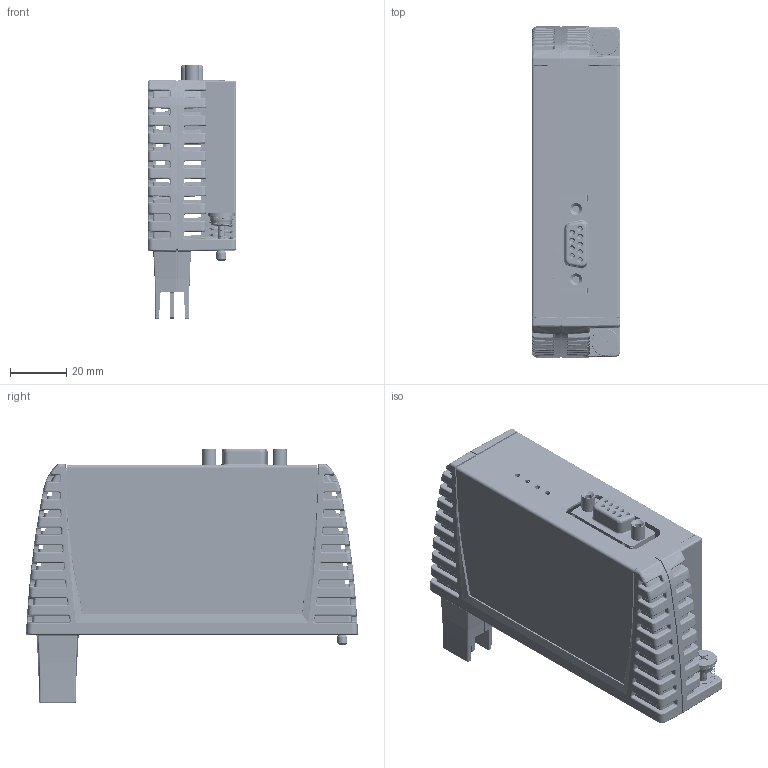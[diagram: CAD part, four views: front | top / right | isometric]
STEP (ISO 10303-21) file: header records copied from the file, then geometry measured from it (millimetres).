
FILE_DESCRIPTION (( 'STEP AP214' ), '1' );
FILE_NAME ('GMPBDP.STEP', '2016-03-30T10:49:52', ( 'Network Administration' ), ( 'Red Lion Controls Inc.' ), 'SwSTEP 2.0', 'SolidWorks 2014', '' );
FILE_SCHEMA (( 'AUTOMOTIVE_DESIGN' ));
Length unit declared in the file: millimetre
Products named in the file (11): 92010A112_92010A112; PEM F-632-1; M4905A_GMPB_2014-03-28; PEM SCBR-632-8 ZI; HWSMEF06_91771A143; McMC 90692A086; McMC 90402A106_90402A106; CV514900_MODULE SHEET METAL WRAP_GMPB WRAPPER - CV509304; CA503100_MODULE CASE, RIGHT HALF; CA503000_MODULE CASE, LEFT HALF; GMPBDP
Assembly tree (16 placements, depth 2):
  GMPBDP
    CA503000_MODULE CASE, LEFT HALF
    CA503100_MODULE CASE, RIGHT HALF
    CV514900_MODULE SHEET METAL WRAP_GMPB WRAPPER - CV509304
    McMC 90402A106_90402A106  x2
    McMC 90692A086  x4
    HWSMEF06_91771A143  x2
    PEM SCBR-632-8 ZI  x2
    M4905A_GMPB_2014-03-28
    PEM F-632-1
    92010A112_92010A112
Bounding box: 31.5 x 117.84 x 90.36 mm (x, y, z)
Volume: 42060.6 mm3; surface area: 80536.9 mm2
Topology: 17 solids, 538 shells, 11638 faces, 28825 edges, 18178 vertices
Faces by surface type: plane 6991, cylinder 2350, bspline 1431, torus 394, cone 366, sphere 106
Entity records: 452665 total; most frequent: CARTESIAN_POINT 109144, ORIENTED_EDGE 55764, DIRECTION 49199, EDGE_CURVE 27887, VECTOR 18489, LINE 18489, VERTEX_POINT 17637, AXIS2_PLACEMENT_3D 15355
